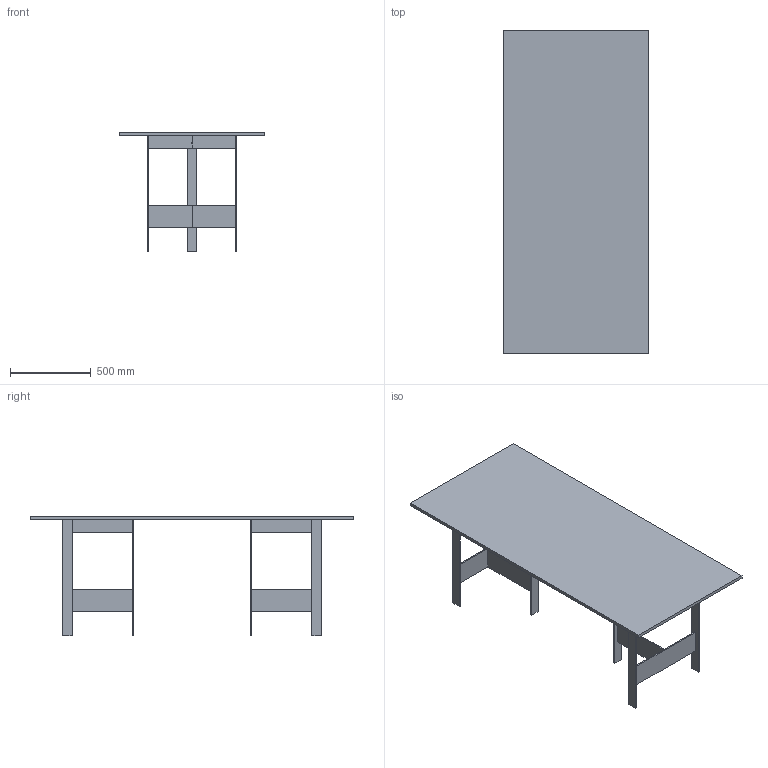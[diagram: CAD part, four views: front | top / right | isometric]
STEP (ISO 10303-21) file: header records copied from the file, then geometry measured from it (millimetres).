
FILE_DESCRIPTION(/* description */ (''),/* implementation_level */ '2;1');
FILE_NAME(/* name */ 'Lager dining table_3D',/* time_stamp */ '2024-09-03T14:17:34+02:00',/* author */ (''),/* organization */ (''),/* preprocessor_version */ 'ST-DEVELOPER v16.5',/* originating_system */ 'Rhino 7.37',/* authorisation */ '');
FILE_SCHEMA (('CONFIG_CONTROL_DESIGN'));
Length unit declared in the file: millimetre
Products named in the file (1): Document
Bounding box: 900 x 2000 x 740 mm (x, y, z)
Volume: 41364536.1 mm3; surface area: 5177933.2 mm2
Topology: 3 solids, 3 shells, 78 faces, 194 edges, 120 vertices
Faces by surface type: plane 78
Entity records: 2060 total; most frequent: CARTESIAN_POINT 588, ORIENTED_EDGE 388, EDGE_CURVE 194, B_SPLINE_CURVE_WITH_KNOTS 194, VERTEX_POINT 120, EDGE_LOOP 84, DIRECTION 82, AXIS2_PLACEMENT_3D 80
